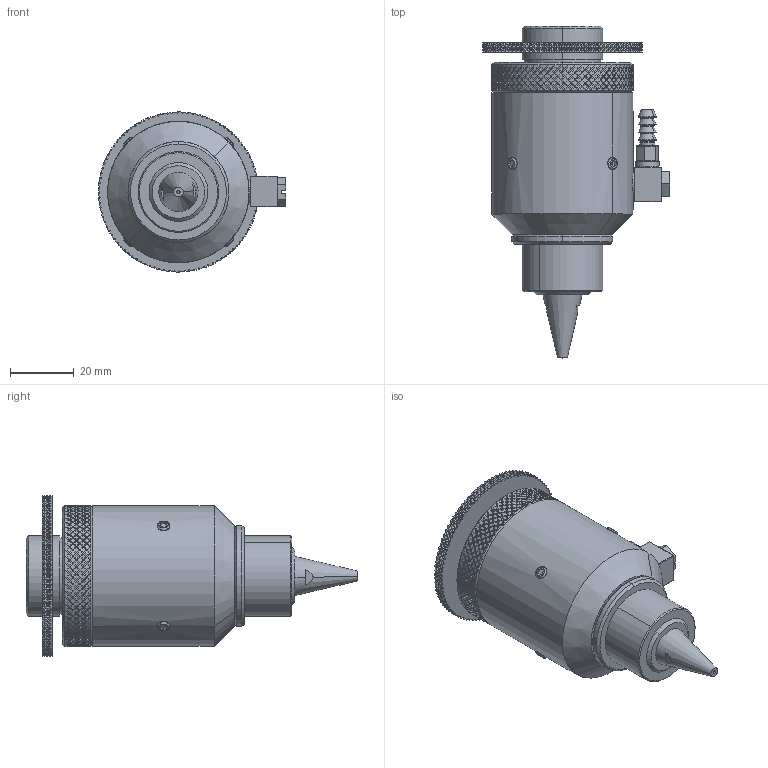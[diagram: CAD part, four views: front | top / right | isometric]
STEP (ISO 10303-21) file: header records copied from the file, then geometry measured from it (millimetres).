
FILE_DESCRIPTION (( 'STEP AP214' ), '1' );
FILE_NAME ('PHA-19-XX-064-SB.STEP', '2016-05-17T18:43:05', ( '' ), ( '' ), 'SwSTEP 2.0', 'SolidWorks 2016', '' );
FILE_SCHEMA (( 'AUTOMOTIVE_DESIGN' ));
Length unit declared in the file: inch
Products named in the file (1): PHA-19-XX-064-SB
Bounding box: 58.8 x 104.27 x 50.29 mm (x, y, z)
Volume: 75684.7 mm3; surface area: 24126.6 mm2
Topology: 2 solids, 2 shells, 5632 faces, 14183 edges, 8564 vertices
Faces by surface type: plane 4530, cylinder 995, cone 50, torus 37, sphere 20
Entity records: 236340 total; most frequent: CARTESIAN_POINT 40760, ORIENTED_EDGE 28326, DIRECTION 22062, EDGE_CURVE 14163, LINE 9666, VECTOR 9666, VERTEX_POINT 8564, AXIS2_PLACEMENT_3D 6198
